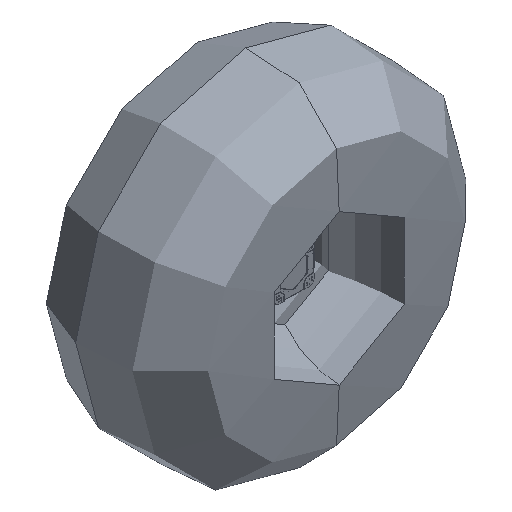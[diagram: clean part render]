
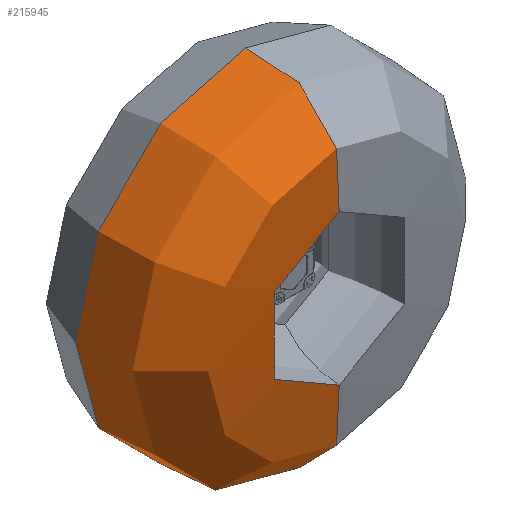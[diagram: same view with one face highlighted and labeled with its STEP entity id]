
A CAD part, isometric view. The second image highlights one B-rep face of the part: STEP entity #215945.
In plain terms, the highlighted toroidal (fillet/blend) face has major radius 1735 mm and minor radius 1325 mm.
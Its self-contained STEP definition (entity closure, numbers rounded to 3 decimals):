
#9326 = CIRCLE ( 'NONE', #444948, 1325. ) ;
#19310 = AXIS2_PLACEMENT_3D ( 'NONE', #81405, #349681, #119899 ) ;
#37817 = EDGE_CURVE ( 'NONE', #486466, #452081, #454679, .T. ) ;
#54067 = CARTESIAN_POINT ( 'NONE',  ( -1735., 228., 0. ) ) ;
#81405 = CARTESIAN_POINT ( 'NONE',  ( 0., 615.393, 0. ) ) ;
#84211 = TOROIDAL_SURFACE ( 'NONE', #163871, 1735., 1325. ) ;
#92678 = DIRECTION ( 'NONE',  ( 1., 0., 0. ) ) ;
#96349 = CARTESIAN_POINT ( 'NONE',  ( 1325.552, -1032.15, 0. ) ) ;
#109475 = DIRECTION ( 'NONE',  ( 0., 0., -1. ) ) ;
#110651 = EDGE_CURVE ( 'NONE', #452081, #163760, #141271, .T. ) ;
#113004 = CARTESIAN_POINT ( 'NONE',  ( 0., 228., 0. ) ) ;
#119899 = DIRECTION ( 'NONE',  ( 0., 0., 1. ) ) ;
#129653 = ORIENTED_EDGE ( 'NONE', *, *, #110651, .F. ) ;
#134748 = EDGE_CURVE ( 'NONE', #424479, #208906, #9326, .T. ) ;
#141271 = CIRCLE ( 'NONE', #453647, 1325. ) ;
#148266 = EDGE_LOOP ( 'NONE', ( #338072, #300012, #411926, #129653, #239782 ) ) ;
#156728 = DIRECTION ( 'NONE',  ( 0., 1., 0. ) ) ;
#163324 = EDGE_CURVE ( 'NONE', #424479, #486466, #361809, .T. ) ;
#163760 = VERTEX_POINT ( 'NONE', #96349 ) ;
#163871 = AXIS2_PLACEMENT_3D ( 'NONE', #113004, #381271, #419866 ) ;
#178891 = CARTESIAN_POINT ( 'NONE',  ( 0., -1032.15, 0. ) ) ;
#186588 = CIRCLE ( 'NONE', #211750, 1325.552 ) ;
#196755 = CARTESIAN_POINT ( 'NONE',  ( 3002.104, 615.393, 0. ) ) ;
#197467 = EDGE_CURVE ( 'NONE', #208906, #163760, #186588, .T. ) ;
#208906 = VERTEX_POINT ( 'NONE', #296948 ) ;
#211750 = AXIS2_PLACEMENT_3D ( 'NONE', #178891, #447200, #217412 ) ;
#212822 = AXIS2_PLACEMENT_3D ( 'NONE', #386439, #156728, #425058 ) ;
#215945 = ADVANCED_FACE ( 'NONE', ( #390181 ), #84211, .T. ) ;
#217412 = DIRECTION ( 'NONE',  ( 0., 0., 1. ) ) ;
#239782 = ORIENTED_EDGE ( 'NONE', *, *, #37817, .F. ) ;
#296948 = CARTESIAN_POINT ( 'NONE',  ( -1325.552, -1032.15, 0. ) ) ;
#300012 = ORIENTED_EDGE ( 'NONE', *, *, #134748, .T. ) ;
#314312 = CARTESIAN_POINT ( 'NONE',  ( -3002.104, 615.393, 0. ) ) ;
#322451 = DIRECTION ( 'NONE',  ( 0., 0., 1. ) ) ;
#338072 = ORIENTED_EDGE ( 'NONE', *, *, #163324, .F. ) ;
#339316 = CARTESIAN_POINT ( 'NONE',  ( 1735., 228., 0. ) ) ;
#349681 = DIRECTION ( 'NONE',  ( 0., 1., 0. ) ) ;
#361809 = CIRCLE ( 'NONE', #212822, 3002.104 ) ;
#377790 = DIRECTION ( 'NONE',  ( -1., 0., 0. ) ) ;
#381271 = DIRECTION ( 'NONE',  ( 0., -1., 0. ) ) ;
#386439 = CARTESIAN_POINT ( 'NONE',  ( 0., 615.393, 0. ) ) ;
#390181 = FACE_OUTER_BOUND ( 'NONE', #148266, .T. ) ;
#411926 = ORIENTED_EDGE ( 'NONE', *, *, #197467, .T. ) ;
#419866 = DIRECTION ( 'NONE',  ( 1., 0., 0. ) ) ;
#424479 = VERTEX_POINT ( 'NONE', #314312 ) ;
#425058 = DIRECTION ( 'NONE',  ( 0., 0., 1. ) ) ;
#444948 = AXIS2_PLACEMENT_3D ( 'NONE', #54067, #322451, #92678 ) ;
#447200 = DIRECTION ( 'NONE',  ( 0., 1., 0. ) ) ;
#452081 = VERTEX_POINT ( 'NONE', #196755 ) ;
#453647 = AXIS2_PLACEMENT_3D ( 'NONE', #339316, #109475, #377790 ) ;
#454679 = CIRCLE ( 'NONE', #19310, 3002.104 ) ;
#457559 = CARTESIAN_POINT ( 'NONE',  ( 0., 615.393, 3002.104 ) ) ;
#486466 = VERTEX_POINT ( 'NONE', #457559 ) ;
